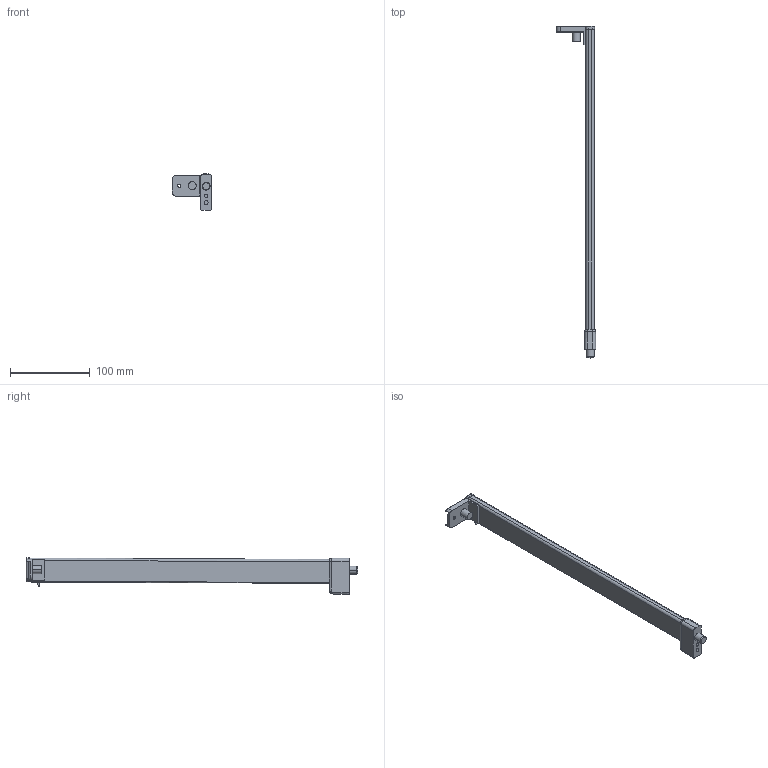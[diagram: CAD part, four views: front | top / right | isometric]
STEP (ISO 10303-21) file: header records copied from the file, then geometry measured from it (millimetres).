
FILE_DESCRIPTION (( 'STEP AP214' ), '1' );
FILE_NAME ('_2S_REL_7606_NL400_RE.step', '2010-07-01T14:41:34', ( 'grass' ), ( '' ), 'SwSTEP 2.0', 'SolidWorks 2009', '' );
FILE_SCHEMA (( 'AUTOMOTIVE_DESIGN' ));
Length unit declared in the file: millimetre
Products named in the file (1): _2S_REL_7606_NL400_RE
Bounding box: 49.25 x 415.5 x 45.4 mm (x, y, z)
Volume: 138523.7 mm3; surface area: 37567.9 mm2
Topology: 2 solids, 2 shells, 120 faces, 292 edges, 178 vertices
Faces by surface type: cylinder 58, plane 40, bspline 10, torus 6, cone 4, sphere 2
Entity records: 4659 total; most frequent: CARTESIAN_POINT 1934, ORIENTED_EDGE 580, DIRECTION 546, EDGE_CURVE 290, AXIS2_PLACEMENT_3D 203, VERTEX_POINT 178, VECTOR 140, LINE 140
